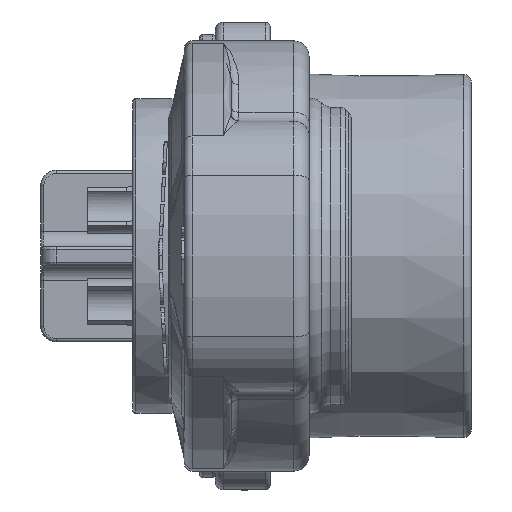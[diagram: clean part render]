
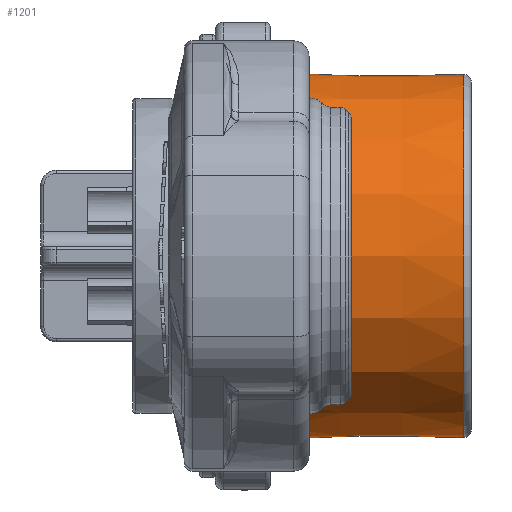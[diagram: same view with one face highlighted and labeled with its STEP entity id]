
A CAD part, front view. The second image highlights one B-rep face of the part: STEP entity #1201.
In plain terms, the highlighted conical face has half-angle 0.5 degrees and reference radius 11.65 mm.
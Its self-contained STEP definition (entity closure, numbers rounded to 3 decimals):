
#1121 = CARTESIAN_POINT ( 'NONE',  ( -0.496, 8.733, 7.718 ) ) ;
#1201 = ADVANCED_FACE ( 'NONE', ( #17158 ), #8886, .T. ) ;
#1336 = CARTESIAN_POINT ( 'NONE',  ( -0.496, 8.733, -7.718 ) ) ;
#1584 = CARTESIAN_POINT ( 'NONE',  ( -8.735, 8.77, -7.785 ) ) ;
#1828 = ORIENTED_EDGE ( 'NONE', *, *, #33526, .T. ) ;
#1921 = CARTESIAN_POINT ( 'NONE',  ( -12.404, 0., 0. ) ) ;
#3199 = ORIENTED_EDGE ( 'NONE', *, *, #40799, .T. ) ;
#6384 = DIRECTION ( 'NONE',  ( 0., 0., 1. ) ) ;
#8886 = CONICAL_SURFACE ( 'NONE', #24069, 11.65, 0.009 ) ;
#9575 = CARTESIAN_POINT ( 'NONE',  ( -2.631, 8.742, -7.735 ) ) ;
#10395 = CARTESIAN_POINT ( 'NONE',  ( -8.135, 8.767, 7.78 ) ) ;
#11773 = ORIENTED_EDGE ( 'NONE', *, *, #25827, .T. ) ;
#12707 = AXIS2_PLACEMENT_3D ( 'NONE', #1921, #46705, #17434 ) ;
#14148 = CARTESIAN_POINT ( 'NONE',  ( -0.496, 8.733, 7.718 ) ) ;
#14310 = DIRECTION ( 'NONE',  ( 0., 0., -1. ) ) ;
#14395 = CARTESIAN_POINT ( 'NONE',  ( -10.269, 8.776, 7.797 ) ) ;
#16445 = CARTESIAN_POINT ( 'NONE',  ( -12.404, 8.786, -7.814 ) ) ;
#17158 = FACE_OUTER_BOUND ( 'NONE', #28711, .T. ) ;
#17434 = DIRECTION ( 'NONE',  ( 0., 0., 1. ) ) ;
#21198 = CARTESIAN_POINT ( 'NONE',  ( -6., 8.757, 7.762 ) ) ;
#24069 = AXIS2_PLACEMENT_3D ( 'NONE', #40440, #25170, #6384 ) ;
#24761 = ORIENTED_EDGE ( 'NONE', *, *, #31132, .T. ) ;
#25170 = DIRECTION ( 'NONE',  ( -1., 0., 0. ) ) ;
#25827 = EDGE_CURVE ( 'NONE', #30878, #25852, #47058, .T. ) ;
#25852 = VERTEX_POINT ( 'NONE', #16445 ) ;
#28711 = EDGE_LOOP ( 'NONE', ( #1828, #11773, #24761, #3199 ) ) ;
#29435 = CARTESIAN_POINT ( 'NONE',  ( -2.33, 8.741, 7.733 ) ) ;
#30878 = VERTEX_POINT ( 'NONE', #40988 ) ;
#31132 = EDGE_CURVE ( 'NONE', #25852, #46054, #31514, .T. ) ;
#31514 = B_SPLINE_CURVE_WITH_KNOTS ( 'NONE', 3,
 ( #31890, #31639, #1584, #43614, #32121, #9575, #1336 ),
 .UNSPECIFIED., .F., .F.,
 ( 4, 3, 4 ),
 ( 0., 0.006, 0.012 ),
 .UNSPECIFIED. ) ;
#31639 = CARTESIAN_POINT ( 'NONE',  ( -10.57, 8.778, -7.8 ) ) ;
#31890 = CARTESIAN_POINT ( 'NONE',  ( -12.404, 8.786, -7.814 ) ) ;
#32121 = CARTESIAN_POINT ( 'NONE',  ( -4.765, 8.752, -7.752 ) ) ;
#33364 = CARTESIAN_POINT ( 'NONE',  ( -0.496, 0., 0. ) ) ;
#33444 = CARTESIAN_POINT ( 'NONE',  ( -4.165, 8.749, 7.747 ) ) ;
#33526 = EDGE_CURVE ( 'NONE', #48056, #30878, #45793, .T. ) ;
#36888 = CARTESIAN_POINT ( 'NONE',  ( -0.496, 8.733, -7.718 ) ) ;
#37815 = CIRCLE ( 'NONE', #44186, 11.654 ) ;
#40440 = CARTESIAN_POINT ( 'NONE',  ( 0., 0., 0. ) ) ;
#40707 = CARTESIAN_POINT ( 'NONE',  ( -12.404, 8.786, 7.814 ) ) ;
#40799 = EDGE_CURVE ( 'NONE', #46054, #48056, #37815, .T. ) ;
#40988 = CARTESIAN_POINT ( 'NONE',  ( -12.404, 8.786, 7.814 ) ) ;
#41357 = DIRECTION ( 'NONE',  ( -1., 0., 0. ) ) ;
#43614 = CARTESIAN_POINT ( 'NONE',  ( -6.9, 8.761, -7.77 ) ) ;
#44186 = AXIS2_PLACEMENT_3D ( 'NONE', #33364, #41357, #14310 ) ;
#45793 = B_SPLINE_CURVE_WITH_KNOTS ( 'NONE', 3,
 ( #14148, #29435, #33444, #21198, #10395, #14395, #40707 ),
 .UNSPECIFIED., .F., .F.,
 ( 4, 3, 4 ),
 ( 0., 0.006, 0.012 ),
 .UNSPECIFIED. ) ;
#46054 = VERTEX_POINT ( 'NONE', #36888 ) ;
#46705 = DIRECTION ( 'NONE',  ( 1., 0., 0. ) ) ;
#47058 = CIRCLE ( 'NONE', #12707, 11.758 ) ;
#48056 = VERTEX_POINT ( 'NONE', #1121 ) ;
